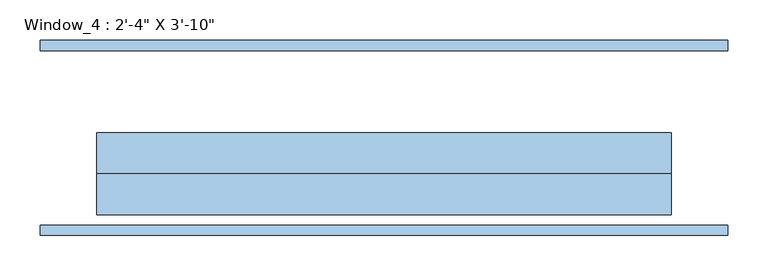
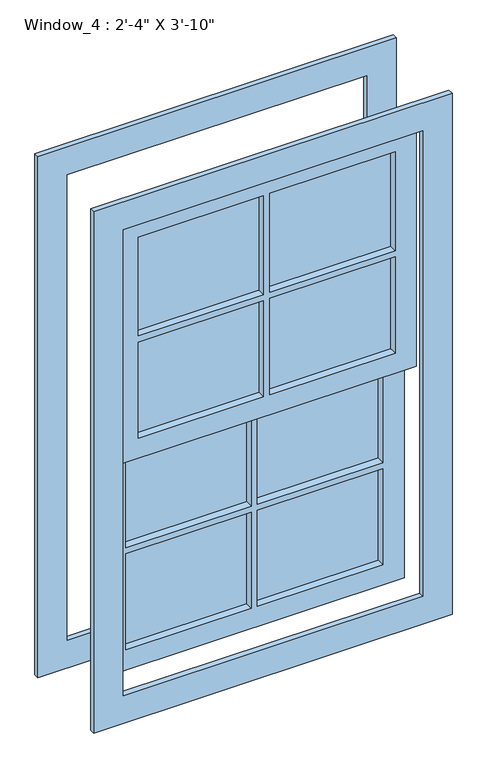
"""IFC4 building model written with IfcOpenShell, lengths in millimetres: window geometry."""

from ifc_helpers import new_model, si_unit, frame, origin, place, context, project, spatial, polyline, outline, extrude, source, transform, mapped, element, save


def window_c8df617f(model_context):
    return source(origin(), model_context, "Body", "SweptSolid", [
        extrude(outline(polyline([(304.8, -63.5), (304.8, -76.7853592), (7.540625, -76.7853592), (7.540625, -63.5), (304.8, -63.5)])), frame((0.0, 0.0, 1732.75625), z_axis=(0.0, 0.0, 1.0), x_axis=(1.0, 0.0, 0.0)), (0.0, 0.0, 1.0), 248.44375),
        extrude(outline(polyline([(-7.540625, -63.5), (-7.540625, -76.7853592), (-304.8, -76.7853592), (-304.8, -63.5), (-7.540625, -63.5)])), frame((0.0, 0.0, 1732.75625), z_axis=(0.0, 0.0, 1.0), x_axis=(1.0, 0.0, 0.0)), (0.0, 0.0, 1.0), 248.44375),
        extrude(outline(polyline([(304.8, -63.5), (304.8, -76.7853592), (7.540625, -76.7853592), (7.540625, -63.5), (304.8, -63.5)])), frame((0.0, 0.0, 1476.375), z_axis=(0.0, 0.0, 1.0), x_axis=(1.0, 0.0, 0.0)), (0.0, 0.0, 1.0), 241.3),
        extrude(outline(polyline([(-7.540625, -63.5), (-7.540625, -76.7853592), (-304.8, -76.7853592), (-304.8, -63.5), (-7.540625, -63.5)])), frame((0.0, 0.0, 1476.375), z_axis=(0.0, 0.0, 1.0), x_axis=(1.0, 0.0, 0.0)), (0.0, 0.0, 1.0), 241.3),
        extrude(outline(polyline([(2032.0, -355.6), (1425.575, -355.6), (1425.575, 355.6), (2032.0, 355.6), (2032.0, -355.6)]), holes=[polyline([(1981.2, 7.540625), (1981.2, 304.8), (1732.75625, 304.8), (1732.75625, 7.540625), (1981.2, 7.540625)]), polyline([(1476.375, 7.540625), (1717.675, 7.540625), (1717.675, 304.8), (1476.375, 304.8), (1476.375, 7.540625)]), polyline([(1732.75625, -304.8), (1981.2, -304.8), (1981.2, -7.540625), (1732.75625, -7.540625), (1732.75625, -304.8)]), polyline([(1476.375, -304.8), (1717.675, -304.8), (1717.675, -7.540625), (1476.375, -7.540625), (1476.375, -304.8)])]), frame((0.0, -95.25, 0.0), z_axis=(0.0, 1.0, 0.0), x_axis=(0.0, 0.0, 1.0)), (0.0, 0.0, 1.0), 50.8),
        extrude(outline(polyline([(7.540625, -25.4), (7.540625, -12.7), (304.8, -12.7), (304.8, -25.4), (7.540625, -25.4)])), frame((0.0, 0.0, 1170.78125), z_axis=(0.0, 0.0, 1.0), x_axis=(1.0, 0.0, 0.0)), (0.0, 0.0, 1.0), 254.79375),
        extrude(outline(polyline([(7.540625, -25.4), (7.540625, -12.7), (304.8, -12.7), (304.8, -25.4), (7.540625, -25.4)])), frame((0.0, 0.0, 914.4), z_axis=(0.0, 0.0, 1.0), x_axis=(1.0, 0.0, 0.0)), (0.0, 0.0, 1.0), 241.3),
        extrude(outline(polyline([(-304.8, -25.4), (-304.8, -12.7), (-7.540625, -12.7), (-7.540625, -25.4), (-304.8, -25.4)])), frame((0.0, 0.0, 1170.78125), z_axis=(0.0, 0.0, 1.0), x_axis=(1.0, 0.0, 0.0)), (0.0, 0.0, 1.0), 254.79375),
        extrude(outline(polyline([(-304.8, -25.4), (-304.8, -12.7), (-7.540625, -12.7), (-7.540625, -25.4), (-304.8, -25.4)])), frame((0.0, 0.0, 914.4), z_axis=(0.0, 0.0, 1.0), x_axis=(1.0, 0.0, 0.0)), (0.0, 0.0, 1.0), 241.3),
        extrude(outline(polyline([(1476.375, -355.6), (863.6, -355.6), (863.6, 355.6), (1476.375, 355.6), (1476.375, -355.6)]), holes=[polyline([(1170.78125, -304.8), (1425.575, -304.8), (1425.575, -7.540625), (1170.78125, -7.540625), (1170.78125, -304.8)]), polyline([(914.4, 7.540625), (1155.7, 7.540625), (1155.7, 304.8), (914.4, 304.8), (914.4, 7.540625)]), polyline([(914.4, -304.8), (1155.7, -304.8), (1155.7, -7.540625), (914.4, -7.540625), (914.4, -304.8)]), polyline([(1425.575, 7.540625), (1425.575, 304.8), (1170.78125, 304.8), (1170.78125, 7.540625), (1425.575, 7.540625)])]), frame((0.0, -44.45, 0.0), z_axis=(0.0, 1.0, 0.0), x_axis=(0.0, 0.0, 1.0)), (0.0, 0.0, 1.0), 50.8),
        extrude(outline(polyline([(793.75, 425.45), (2101.85, 425.45), (2101.85, -425.45), (793.75, -425.45), (793.75, 425.45)]), holes=[polyline([(863.6, 355.6), (863.6, -355.6), (2032.0, -355.6), (2032.0, 355.6), (863.6, 355.6)])]), frame((0.0, 107.95, 0.0), z_axis=(0.0, 1.0, 0.0), x_axis=(0.0, 0.0, 1.0)), (0.0, 0.0, 1.0), 12.7),
        extrude(outline(polyline([(793.75, 425.45), (2101.85, 425.45), (2101.85, -425.45), (793.75, -425.45), (793.75, 425.45)]), holes=[polyline([(863.6, 355.6), (863.6, -355.6), (2032.0, -355.6), (2032.0, 355.6), (863.6, 355.6)])]), frame((0.0, -120.65, 0.0), z_axis=(0.0, 1.0, 0.0), x_axis=(0.0, 0.0, 1.0)), (0.0, 0.0, 1.0), 12.7),
    ])


if __name__ == "__main__":
    model = new_model("IFC4")
    model_context = context("Model", 3, world=origin())
    ifc_project = project(units=[si_unit("LENGTHUNIT", "METRE", prefix="MILLI")], contexts=[model_context])
    site = spatial("IfcSite", under=ifc_project)
    building = spatial("IfcBuilding", under=site)
    placement = place(None, origin())
    window_shape = window_c8df617f(model_context)
    element("IfcWindow", 1, ObjectType="Window_4 : 2'-4\" X 3'-10\"", at=placement, inside=building, context=model_context, shape_type="MappedRepresentation", body=[
        mapped(window_shape, transform((0.0, 0.0, 0.0), x_axis=(1.0, 0.0, 0.0), y_axis=(0.0, 1.0, 0.0), z_axis=(0.0, 0.0, 1.0))),
    ])
    save(model, "model.ifc")
